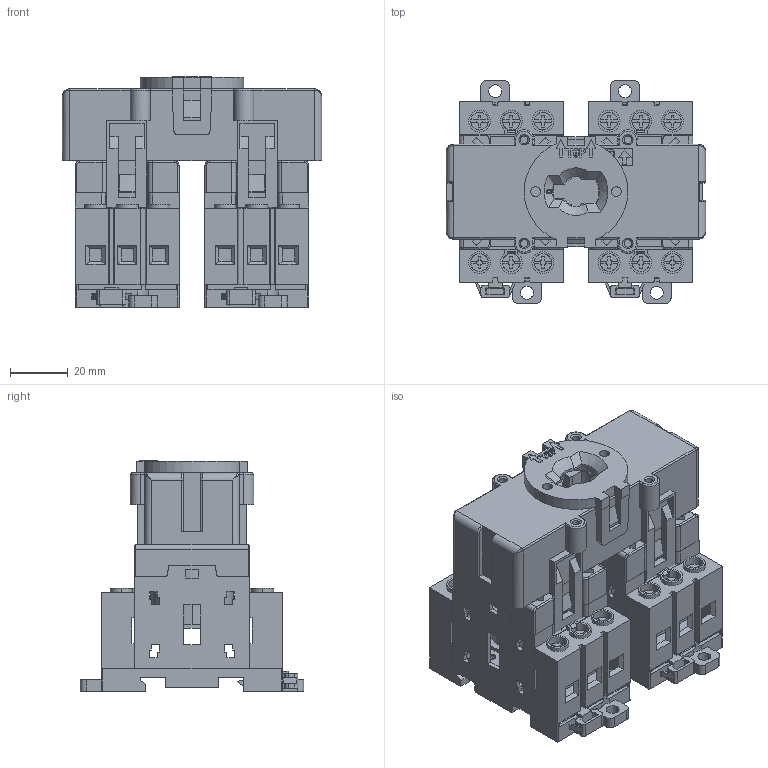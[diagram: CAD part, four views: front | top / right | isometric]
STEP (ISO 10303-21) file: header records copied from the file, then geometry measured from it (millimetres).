
FILE_DESCRIPTION((''),'2;1');
FILE_NAME('10007839606_ASM','2024-03-01T10:14:22',('LEQuenti'),('Rockwell Automation'),'CREO PARAMETRIC BY PTC INC, 2020281','CREO PARAMETRIC BY PTC INC, 2020281','');
FILE_SCHEMA(('CONFIG_CONTROL_DESIGN'));
Length unit declared in the file: millimetre
Products named in the file (11): 10007839605; 10007825636; 10007815671; 10007825635; 10007825634; 10007825633; 10007825632; 10007825631; 10007839604_ASM; 10007815668; 10007839606_ASM
Assembly tree (17 placements, depth 3):
  10007839606_ASM
    10007839605
    10007839604_ASM  x2
      10007825636
      10007815671
      10007825635
      10007825634
      10007825633
      10007825632
      10007825631
    10007815668
Bounding box: 90 x 77.6 x 80 mm (x, y, z)
Volume: 150395.4 mm3; surface area: 106777.2 mm2
Topology: 26 solids, 28 shells, 2453 faces, 6649 edges, 4304 vertices
Faces by surface type: plane 1643, cylinder 653, cone 111, torus 32, sphere 8, bspline 6
Entity records: 39595 total; most frequent: CARTESIAN_POINT 7444, ORIENTED_EDGE 6716, DIRECTION 6523, EDGE_CURVE 3360, VECTOR 2593, LINE 2593, VERTEX_POINT 2180, AXIS2_PLACEMENT_3D 1965
